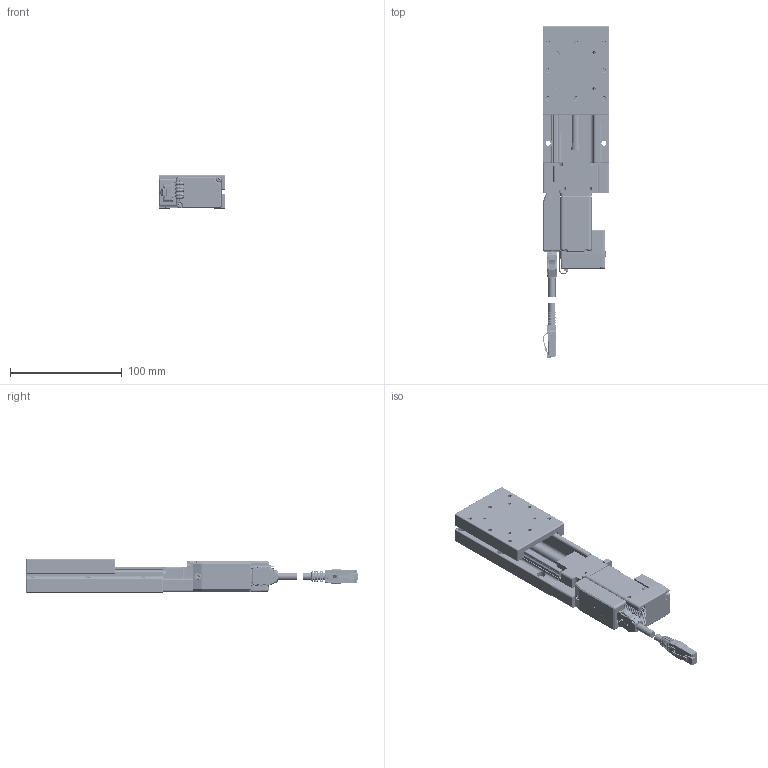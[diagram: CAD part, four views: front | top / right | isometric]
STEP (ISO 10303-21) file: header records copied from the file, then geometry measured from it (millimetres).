
FILE_DESCRIPTION(/* description */ (''),/* implementation_level */ '2;1');
FILE_NAME(/* name */ 'CXS60x50-EzI-SERVO ALL-28M',/* time_stamp */ '2022-08-24T21:13:22+02:00',/* author */ (''),/* organization */ (''),/* preprocessor_version */ 'ST-DEVELOPER v16.7',/* originating_system */ 'Solid Edge',/* authorisation */ 'Unknown');
FILE_SCHEMA (('AUTOMOTIVE_DESIGN {1 0 10303 214 3 1 1}'));
Products named in the file (28): CXS60x50-EzI-SERVO ALL-28M; CXS6050; CXS6050-60; CXS6050-50; 09451819000_100744258MOD000C; 09451511525_100534264MOD000A; Motorflansch-ix-001; ISO 4762_M2,5x5_8.8; ISO 4762_M3x10_8.8; EzI-SERVO ALL-28L; M16-EC-028-02-R00; M16-EC-028-01-R00; PCB-1-04; PCB-2-04; M1L-EC-028-03-R00; pan cross head_ks_KS 1023 PC- M2.5 x 8-N; BM12B-GHS-TBT; Condensador 10_17.5; 20PS-JMCS-G-1B-TF(N); 20R-JMCS-G-B-TF(NSA); M1L-MO-028-03-R01; JST-GHR-12V-S_with_terminals; JST_GHR-CONTACT; JST_GHR-12V-S; Gehäuse-ix-001; Platine-ix-001; PCB ix Industrial-001; 09452819001
Assembly tree (39 placements, depth 4):
  CXS60x50-EzI-SERVO ALL-28M
    CXS6050
      CXS6050-60
      CXS6050-50
    09451819000_100744258MOD000C
    09451511525_100534264MOD000A
    Motorflansch-ix-001
    ISO 4762_M2,5x5_8.8
    ISO 4762_M3x10_8.8
    EzI-SERVO ALL-28L
      M16-EC-028-02-R00
      M16-EC-028-01-R00
      PCB-1-04
      PCB-2-04
      M1L-EC-028-03-R00
      pan cross head_ks_KS 1023 PC- M2.5 x 8-N  x2
      BM12B-GHS-TBT
      Condensador 10_17.5
      20PS-JMCS-G-1B-TF(N)
      20R-JMCS-G-B-TF(NSA)
      M1L-MO-028-03-R01
      JST-GHR-12V-S_with_terminals
        JST_GHR-CONTACT  x12
        JST_GHR-12V-S
    Gehäuse-ix-001
    Platine-ix-001
      PCB ix Industrial-001
      09452819001
Bounding box: 60 x 297.43 x 30 mm (x, y, z)
Volume: 217974.3 mm3; surface area: 103308.3 mm2
Topology: 36 solids, 38 shells, 9226 faces, 25604 edges, 16616 vertices
Faces by surface type: plane 6205, cylinder 2082, bspline 590, torus 159, cone 121, sphere 69
Full cylindrical faces by diameter (mm): 0.279 x1, 0.4 x2, 0.5 x14, 0.7 x3, 0.9 x54, 1 x36, 1.4 x54, 1.45 x2, 1.6 x1, 1.75 x2, 2.013 x2, 2.05 x6, 2.459 x1, 2.5 x8, 2.8 x4, 3 x2, 3.2 x1, 3.3 x8, 3.5 x1, 3.8 x1, 4.5 x6, 4.68 x1, 5 x4, 5.5 x2, 6 x3, 6.2 x1, 6.3 x1, 6.4 x1, 7.8 x6, 8 x2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
Entity records: 311498 total; most frequent: CARTESIAN_POINT 82393, ORIENTED_EDGE 42834, DIRECTION 37306, EDGE_CURVE 21447, LINE 16926, VECTOR 16926, VERTEX_POINT 14210, AXIS2_PLACEMENT_3D 10190
